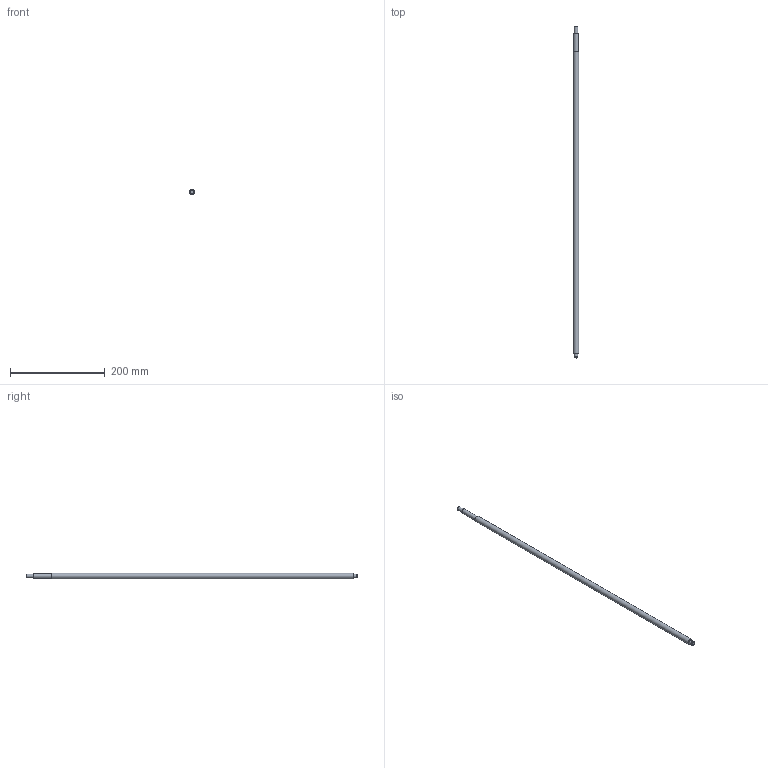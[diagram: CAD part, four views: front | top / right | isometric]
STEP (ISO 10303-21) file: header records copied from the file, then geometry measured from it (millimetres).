
FILE_DESCRIPTION(/* description */ (''),/* implementation_level */ '2;1');
FILE_NAME(/* name */ 'C:\Users\David\Desktop\stepFiles\Profilfuehrung\KUS1204x700.stp',/* time_stamp */ '2018-06-24T15:05:14+02:00',/* author */ ('David'),/* organization */ (''),/* preprocessor_version */ 'ST-DEVELOPER v17',/* originating_system */ 'Autodesk Inventor 2019',/* authorisation */ '');
FILE_SCHEMA (('AUTOMOTIVE_DESIGN { 1 0 10303 214 3 1 1 }'));
Length unit declared in the file: millimetre
Products named in the file (1): SFU1204xvariabel
Bounding box: 12 x 700 x 12 mm (x, y, z)
Volume: 76239.2 mm3; surface area: 26049.7 mm2
Topology: 1 solids, 1 shells, 15 faces, 34 edges, 26 vertices
Faces by surface type: plane 7, cylinder 6, cone 2
Full cylindrical faces by diameter (mm): 7.6 x1, 8 x3, 10 x1, 12 x1
Entity records: 493 total; most frequent: DIRECTION 92, CARTESIAN_POINT 76, ORIENTED_EDGE 68, AXIS2_PLACEMENT_3D 42, EDGE_CURVE 34, CIRCLE 26, VERTEX_POINT 26, EDGE_LOOP 20
